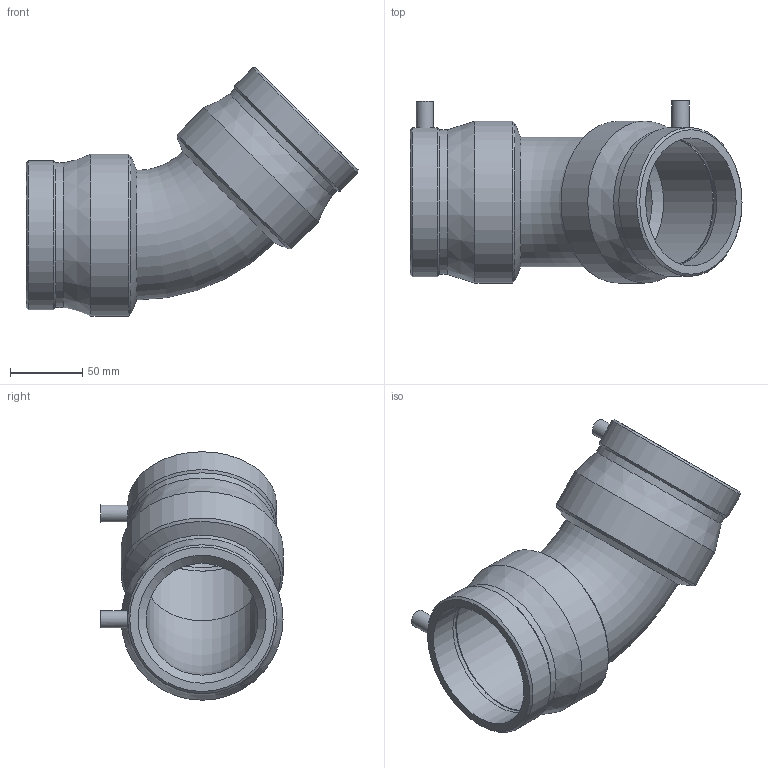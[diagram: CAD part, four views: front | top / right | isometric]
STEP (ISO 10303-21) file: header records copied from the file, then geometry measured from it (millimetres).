
FILE_DESCRIPTION(/* description */ ('PLASSON 45° ELBOW 3'''''),/* implementation_level */ '2;1');
FILE_NAME(/* name */ 'C:\Dropbox\KIMPROJECTS-Inventor 2019\99-16-3568-Processing Inch\ASTM ElectroFusion 2021\5906B\5906B003030.ipt.stp',/* time_stamp */ '2021-08-30T09:50:06+03:00',/* author */ ('KIM'),/* organization */ (''),/* preprocessor_version */ 'ST-DEVELOPER v17.2',/* originating_system */ 'Autodesk Inventor 2019',/* authorisation */ '');
FILE_SCHEMA (('AUTOMOTIVE_DESIGN { 1 0 10303 214 3 1 1 }'));
Length unit declared in the file: inch
Products named in the file (1): 5906B003030
Bounding box: 230.12 x 126.24 x 172.2 mm (x, y, z)
Volume: 554443.2 mm3; surface area: 144103.7 mm2
Topology: 1 solids, 1 shells, 42 faces, 108 edges, 76 vertices
Faces by surface type: cylinder 16, cone 14, plane 10, torus 2
Full cylindrical faces by diameter (mm): 4.8 x2, 9.6 x2, 12 x2, 88.7 x4, 100.188 x2, 103.287 x2, 112.268 x2
Entity records: 1449 total; most frequent: CARTESIAN_POINT 295, DIRECTION 264, ORIENTED_EDGE 216, AXIS2_PLACEMENT_3D 117, EDGE_CURVE 108, VERTEX_POINT 76, CIRCLE 74, EDGE_LOOP 52
